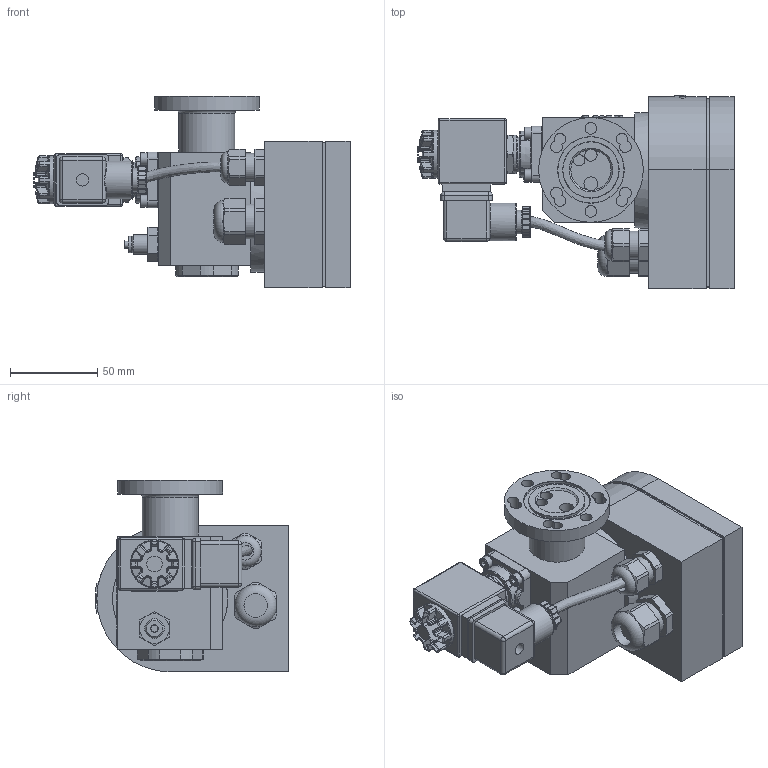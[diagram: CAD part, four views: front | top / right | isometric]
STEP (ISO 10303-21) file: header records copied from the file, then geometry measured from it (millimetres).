
FILE_DESCRIPTION(/* description */ (''),/* implementation_level */ '2;1');
FILE_NAME(/* name */ 'C:\Users\husser\Desktop\ERM6-0-BC_AG-Kunde.stp',/* time_stamp */ '2024-08-01T08:45:31+02:00',/* author */ ('Husser'),/* organization */ (''),/* preprocessor_version */ 'ST-DEVELOPER v18.1',/* originating_system */ 'Autodesk Inventor 2021',/* authorisation */ '');
FILE_SCHEMA (('AUTOMOTIVE_DESIGN { 1 0 10303 214 3 1 1 }'));
Products named in the file (1): ERM6-0-BC_AG-Kunde
Bounding box: 181.11 x 111 x 109.8 mm (x, y, z)
Volume: 806802.8 mm3; surface area: 84265.6 mm2
Topology: 1 solids, 1 shells, 1965 faces, 4987 edges, 3166 vertices
Faces by surface type: plane 910, bspline 585, cylinder 245, torus 113, cone 60, sphere 52
Full cylindrical faces by diameter (mm): 4 x1, 6.4 x1, 6.7 x2, 7 x6, 8 x1, 9.1 x1, 9.4 x1, 10 x1, 10.5 x1, 11.112 x1, 13.5 x2, 16 x1, 20 x2, 20.5 x1, 21.5 x1, 22 x1, 24.2 x1, 27.5 x1, 32 x1, 32.35 x1, 37.95 x1, 60 x1, 66 x1
Entity records: 75166 total; most frequent: CARTESIAN_POINT 30694, ORIENTED_EDGE 9978, DIRECTION 7347, EDGE_CURVE 4989, VERTEX_POINT 3166, LINE 2809, VECTOR 2809, AXIS2_PLACEMENT_3D 2269
